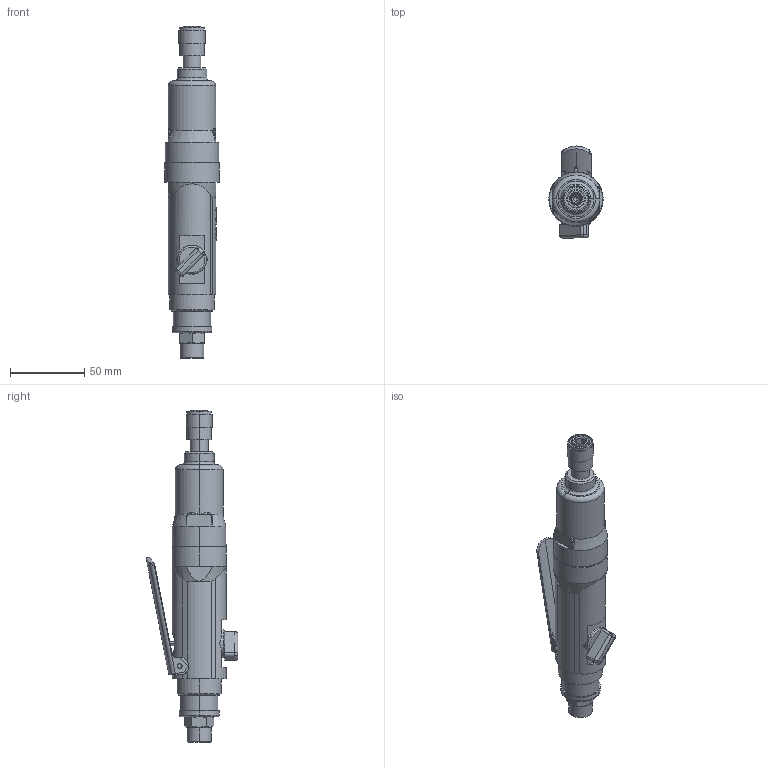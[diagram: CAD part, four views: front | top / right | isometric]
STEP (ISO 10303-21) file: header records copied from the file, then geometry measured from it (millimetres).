
FILE_DESCRIPTION (( 'STEP AP203' ), '1' );
FILE_NAME ('UX-310SD.STEP', '2006-12-03T23:58:36', ( ' ' ), ( ' ' ), 'SwSTEP 2.0', 'SolidWorks 2003240', '' );
FILE_SCHEMA (( 'CONFIG_CONTROL_DESIGN' ));
Length unit declared in the file: millimetre
Products named in the file (9): 1960252_蹬怮椔; 9810020_ULT30D_蹬怮椔; 0113511_ULT30D_蹬怮椔; UX-310SD; 1964396_蹬怮椔; 4102121_蹬怮椔; 1961077_蹬怮椔; 兂2.5峾僺儞亊15.8_棉太倌; 1963507_蹬怮椔
Assembly tree (8 placements, depth 2):
  UX-310SD
    1963507_蹬怮椔
    1964396_蹬怮椔
    1960252_蹬怮椔
    4102121_蹬怮椔
    兂2.5峾僺儞亊15.8_棉太倌
    0113511_ULT30D_蹬怮椔
    9810020_ULT30D_蹬怮椔
    1961077_蹬怮椔
Bounding box: 36.5 x 61.67 x 222.9 mm (x, y, z)
Volume: 157370.6 mm3; surface area: 34123.1 mm2
Topology: 8 solids, 8 shells, 400 faces, 1009 edges, 635 vertices
Faces by surface type: plane 134, cylinder 106, bspline 99, cone 34, torus 23, sphere 4
Entity records: 24200 total; most frequent: CARTESIAN_POINT 14413, ORIENTED_EDGE 1980, DIRECTION 1601, EDGE_CURVE 990, VERTEX_POINT 630, AXIS2_PLACEMENT_3D 606, EDGE_LOOP 432, ADVANCED_FACE 400
